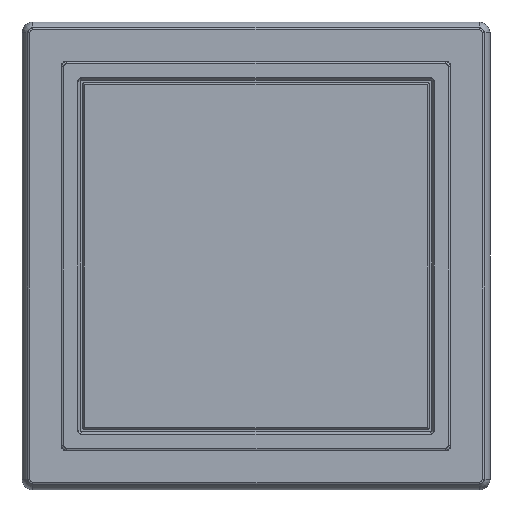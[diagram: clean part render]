
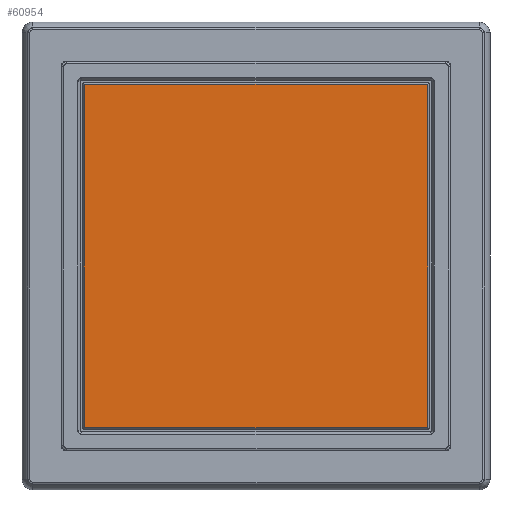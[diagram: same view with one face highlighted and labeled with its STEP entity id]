
A CAD part, top view. The second image highlights one B-rep face of the part: STEP entity #60954.
In plain terms, the highlighted planar face has unit normal (0, 0, 1).
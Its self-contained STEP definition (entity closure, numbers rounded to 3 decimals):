
#5875=PLANE('',#65248);
#7273=FACE_OUTER_BOUND('',#10937,.T.);
#10937=EDGE_LOOP('',(#41836,#41837,#41838,#41839,#41840,#41841,#41842,#41843));
#14137=ELLIPSE('',#65238,0.645,0.5);
#14138=ELLIPSE('',#65241,0.645,0.5);
#14139=ELLIPSE('',#65244,0.645,0.5);
#14140=ELLIPSE('',#65247,0.645,0.5);
#17067=LINE('',#101447,#20780);
#17069=LINE('',#101454,#20782);
#17073=LINE('',#101463,#20786);
#17076=LINE('',#101471,#20789);
#20780=VECTOR('',#73904,125.979);
#20782=VECTOR('',#73912,125.979);
#20786=VECTOR('',#73922,125.979);
#20789=VECTOR('',#73931,125.979);
#24861=VERTEX_POINT('',#101443);
#24862=VERTEX_POINT('',#101445);
#24863=VERTEX_POINT('',#101449);
#24864=VERTEX_POINT('',#101453);
#24865=VERTEX_POINT('',#101457);
#24866=VERTEX_POINT('',#101461);
#24867=VERTEX_POINT('',#101465);
#24868=VERTEX_POINT('',#101469);
#30952=EDGE_CURVE('',#24861,#24862,#17067,.T.);
#30954=EDGE_CURVE('',#24863,#24861,#14137,.T.);
#30955=EDGE_CURVE('',#24864,#24863,#17069,.T.);
#30958=EDGE_CURVE('',#24865,#24864,#14138,.T.);
#30960=EDGE_CURVE('',#24866,#24865,#17073,.T.);
#30962=EDGE_CURVE('',#24867,#24866,#14139,.T.);
#30964=EDGE_CURVE('',#24868,#24867,#17076,.T.);
#30965=EDGE_CURVE('',#24862,#24868,#14140,.T.);
#41836=ORIENTED_EDGE('',*,*,#30954,.T.);
#41837=ORIENTED_EDGE('',*,*,#30952,.T.);
#41838=ORIENTED_EDGE('',*,*,#30965,.T.);
#41839=ORIENTED_EDGE('',*,*,#30964,.T.);
#41840=ORIENTED_EDGE('',*,*,#30962,.T.);
#41841=ORIENTED_EDGE('',*,*,#30960,.T.);
#41842=ORIENTED_EDGE('',*,*,#30958,.T.);
#41843=ORIENTED_EDGE('',*,*,#30955,.T.);
#60954=ADVANCED_FACE('',(#7273),#5875,.T.);
#65238=AXIS2_PLACEMENT_3D('',#101451,#73908,#73909);
#65241=AXIS2_PLACEMENT_3D('',#101459,#73917,#73918);
#65244=AXIS2_PLACEMENT_3D('',#101467,#73926,#73927);
#65247=AXIS2_PLACEMENT_3D('',#101473,#73934,#73935);
#65248=AXIS2_PLACEMENT_3D('',#101474,#73936,#73937);
#73904=DIRECTION('',(0.,-1.,0.));
#73908=DIRECTION('center_axis',(0.,0.,1.));
#73909=DIRECTION('ref_axis',(-0.707,0.707,0.));
#73912=DIRECTION('',(-1.,0.,0.));
#73917=DIRECTION('center_axis',(0.,0.,1.));
#73918=DIRECTION('ref_axis',(0.707,0.707,0.));
#73922=DIRECTION('',(0.,1.,0.));
#73926=DIRECTION('center_axis',(0.,0.,1.));
#73927=DIRECTION('ref_axis',(0.707,-0.707,0.));
#73931=DIRECTION('',(1.,0.,0.));
#73934=DIRECTION('center_axis',(0.,0.,1.));
#73935=DIRECTION('ref_axis',(-0.707,-0.707,0.));
#73936=DIRECTION('center_axis',(0.,0.,1.));
#73937=DIRECTION('ref_axis',(1.,0.,0.));
#101443=CARTESIAN_POINT('',(-63.423,62.99,8.));
#101445=CARTESIAN_POINT('',(-63.423,-62.99,8.));
#101447=CARTESIAN_POINT('',(-63.423,62.99,8.));
#101449=CARTESIAN_POINT('',(-62.99,63.423,8.));
#101451=CARTESIAN_POINT('Origin',(-62.845,62.845,8.));
#101453=CARTESIAN_POINT('',(62.99,63.423,8.));
#101454=CARTESIAN_POINT('',(62.99,63.423,8.));
#101457=CARTESIAN_POINT('',(63.423,62.99,8.));
#101459=CARTESIAN_POINT('Origin',(62.845,62.845,8.));
#101461=CARTESIAN_POINT('',(63.423,-62.99,8.));
#101463=CARTESIAN_POINT('',(63.423,-62.99,8.));
#101465=CARTESIAN_POINT('',(62.99,-63.423,8.));
#101467=CARTESIAN_POINT('Origin',(62.845,-62.845,8.));
#101469=CARTESIAN_POINT('',(-62.99,-63.423,8.));
#101471=CARTESIAN_POINT('',(-62.99,-63.423,8.));
#101473=CARTESIAN_POINT('Origin',(-62.845,-62.845,8.));
#101474=CARTESIAN_POINT('Origin',(0.,0.,8.));
